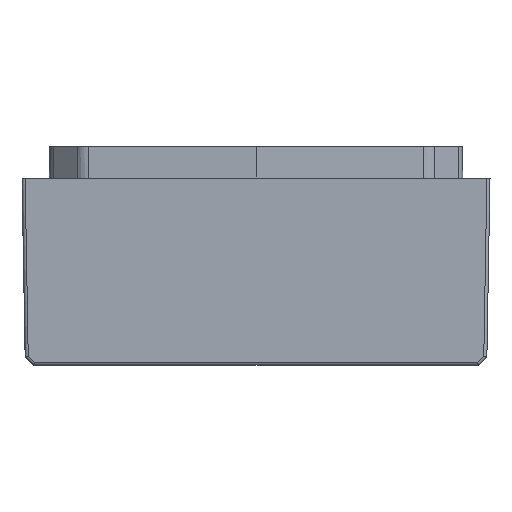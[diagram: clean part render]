
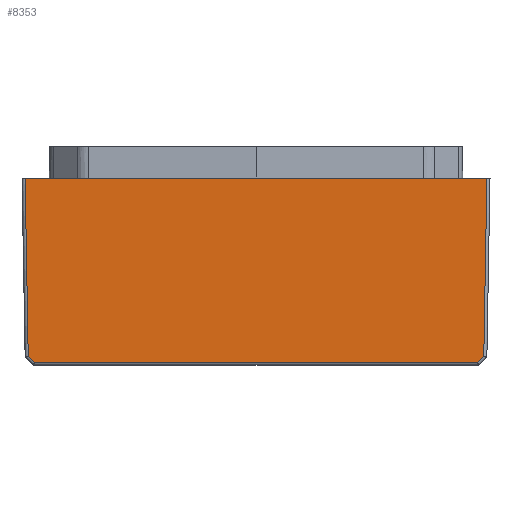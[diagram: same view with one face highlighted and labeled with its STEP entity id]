
A CAD part, front view. The second image highlights one B-rep face of the part: STEP entity #8353.
In plain terms, the highlighted planar face has unit normal (0, -1, -0.018).
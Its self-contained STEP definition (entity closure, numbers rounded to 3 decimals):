
#4 = EDGE_CURVE ( 'NONE', #19961, #5381, #8290, .T. ) ;
#773 = ORIENTED_EDGE ( 'NONE', *, *, #5644, .T. ) ;
#793 = VECTOR ( 'NONE', #2524, 1000. ) ;
#1235 = DIRECTION ( 'NONE',  ( 0.707, 0.012, -0.707 ) ) ;
#1545 = VERTEX_POINT ( 'NONE', #16993 ) ;
#2117 = CARTESIAN_POINT ( 'NONE',  ( -150., -200., 0. ) ) ;
#2259 = PLANE ( 'NONE',  #6249 ) ;
#2524 = DIRECTION ( 'NONE',  ( 0.017, -0.017, 1. ) ) ;
#2558 = ORIENTED_EDGE ( 'NONE', *, *, #10843, .T. ) ;
#2656 = DIRECTION ( 'NONE',  ( 1., 0., 0. ) ) ;
#3395 = ORIENTED_EDGE ( 'NONE', *, *, #3597, .T. ) ;
#3597 = EDGE_CURVE ( 'NONE', #5381, #3728, #11377, .T. ) ;
#3657 = LINE ( 'NONE', #18690, #7361 ) ;
#3724 = ORIENTED_EDGE ( 'NONE', *, *, #4, .T. ) ;
#3728 = VERTEX_POINT ( 'NONE', #7651 ) ;
#4021 = ORIENTED_EDGE ( 'NONE', *, *, #13062, .T. ) ;
#4533 = LINE ( 'NONE', #7001, #16130 ) ;
#4837 = VECTOR ( 'NONE', #16393, 1000. ) ;
#5381 = VERTEX_POINT ( 'NONE', #8305 ) ;
#5644 = EDGE_CURVE ( 'NONE', #9333, #19920, #3657, .T. ) ;
#6249 = AXIS2_PLACEMENT_3D ( 'NONE', #2117, #18096, #14967 ) ;
#7001 = CARTESIAN_POINT ( 'NONE',  ( -150., -197.94, -118.035 ) ) ;
#7016 = ORIENTED_EDGE ( 'NONE', *, *, #15512, .F. ) ;
#7306 = DIRECTION ( 'NONE',  ( 0.017, 0.017, -1. ) ) ;
#7307 = CARTESIAN_POINT ( 'NONE',  ( -150., -200., 0. ) ) ;
#7361 = VECTOR ( 'NONE', #1235, 1000. ) ;
#7553 = EDGE_LOOP ( 'NONE', ( #3724, #3395, #7016, #4021, #773, #2558 ) ) ;
#7651 = CARTESIAN_POINT ( 'NONE',  ( 148., -200., 0. ) ) ;
#8130 = LINE ( 'NONE', #8890, #16032 ) ;
#8290 = LINE ( 'NONE', #11519, #4837 ) ;
#8305 = CARTESIAN_POINT ( 'NONE',  ( 146.009, -198.008, -114.103 ) ) ;
#8353 = ADVANCED_FACE ( 'NONE', ( #18954 ), #2259, .T. ) ;
#8397 = CARTESIAN_POINT ( 'NONE',  ( -146.009, -198.008, -114.103 ) ) ;
#8654 = DIRECTION ( 'NONE',  ( 1., 0., 0. ) ) ;
#8890 = CARTESIAN_POINT ( 'NONE',  ( -148.001, -200.001, 0.035 ) ) ;
#9333 = VERTEX_POINT ( 'NONE', #8397 ) ;
#9722 = VECTOR ( 'NONE', #2656, 1000. ) ;
#9945 = CARTESIAN_POINT ( 'NONE',  ( 142.077, -197.94, -118.035 ) ) ;
#10843 = EDGE_CURVE ( 'NONE', #19920, #19961, #4533, .T. ) ;
#11225 = LINE ( 'NONE', #7307, #9722 ) ;
#11377 = LINE ( 'NONE', #14949, #793 ) ;
#11519 = CARTESIAN_POINT ( 'NONE',  ( 55.087, -196.421, -205.025 ) ) ;
#11623 = CARTESIAN_POINT ( 'NONE',  ( -142.077, -197.94, -118.035 ) ) ;
#13062 = EDGE_CURVE ( 'NONE', #1545, #9333, #8130, .T. ) ;
#14949 = CARTESIAN_POINT ( 'NONE',  ( 147.91, -199.909, -5.198 ) ) ;
#14967 = DIRECTION ( 'NONE',  ( 0., 0.017, -1. ) ) ;
#15512 = EDGE_CURVE ( 'NONE', #1545, #3728, #11225, .T. ) ;
#16032 = VECTOR ( 'NONE', #7306, 1000. ) ;
#16130 = VECTOR ( 'NONE', #8654, 1000. ) ;
#16393 = DIRECTION ( 'NONE',  ( 0.707, -0.012, 0.707 ) ) ;
#16993 = CARTESIAN_POINT ( 'NONE',  ( -148., -200., 0. ) ) ;
#18096 = DIRECTION ( 'NONE',  ( 0., -1., -0.017 ) ) ;
#18690 = CARTESIAN_POINT ( 'NONE',  ( -205.064, -199.039, -55.048 ) ) ;
#18954 = FACE_OUTER_BOUND ( 'NONE', #7553, .T. ) ;
#19920 = VERTEX_POINT ( 'NONE', #11623 ) ;
#19961 = VERTEX_POINT ( 'NONE', #9945 ) ;
